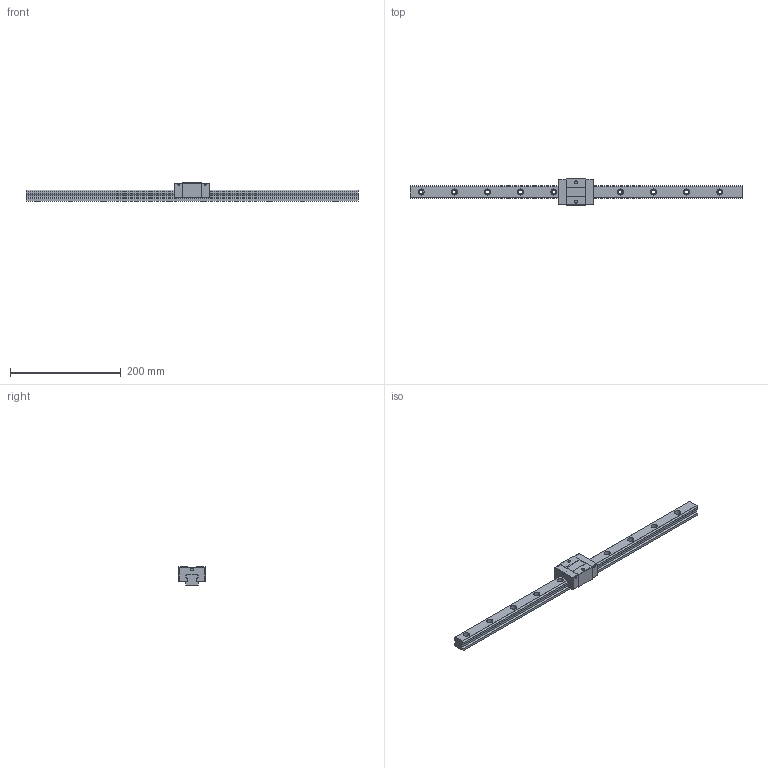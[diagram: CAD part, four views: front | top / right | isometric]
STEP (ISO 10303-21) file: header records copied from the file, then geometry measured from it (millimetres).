
FILE_DESCRIPTION (( 'STEP AP203' ), '1' );
FILE_NAME ('TRS25VS-SU.STEP', '2024-06-26T03:45:53', ( '' ), ( '' ), 'SwSTEP 2.0', 'SolidWorks 2022', '' );
FILE_SCHEMA (( 'CONFIG_CONTROL_DESIGN' ));
Length unit declared in the file: millimetre
Products named in the file (1): TRS25VS-SU
Bounding box: 600 x 48 x 33 mm (x, y, z)
Volume: 295013.3 mm3; surface area: 72694.9 mm2
Topology: 2 solids, 2 shells, 186 faces, 484 edges, 320 vertices
Faces by surface type: plane 94, cylinder 92
Entity records: 5863 total; most frequent: DIRECTION 1042, CARTESIAN_POINT 991, ORIENTED_EDGE 968, EDGE_CURVE 484, AXIS2_PLACEMENT_3D 371, VERTEX_POINT 320, LINE 300, VECTOR 300
